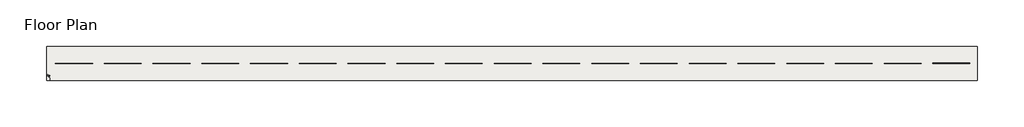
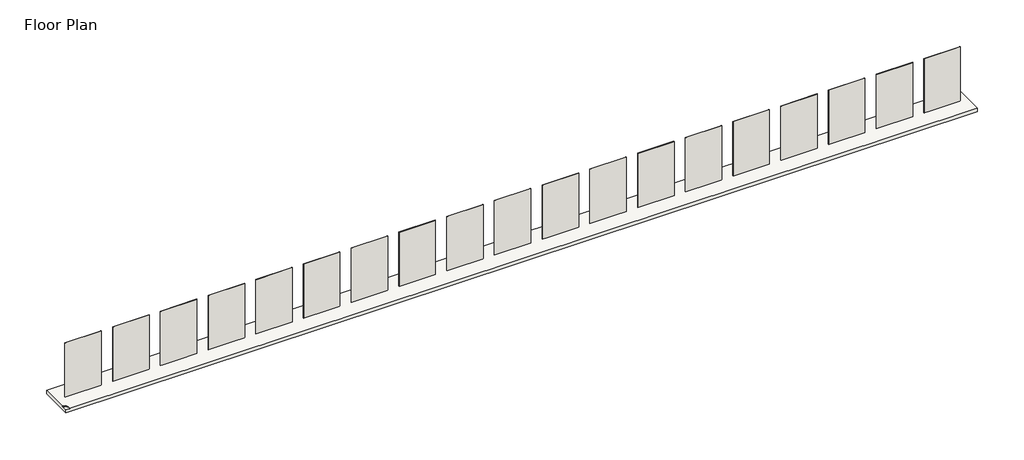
# One storey, incomplete: 19 walls, 1 slab.
"""IFC4 building model written with IfcOpenShell, lengths in millimetres."""

from ifc_helpers import new_model, si_unit, origin, origin_with_axes, place, context, project, spatial, polyline, outline, extrude, faceted_brep, element, save

model = new_model("IFC4")

# Units and contexts
model_context = context("Model", 3, world=origin())
ifc_project = project(units=[si_unit("LENGTHUNIT", "METRE", prefix="MILLI")], contexts=[model_context])

# Site, building, storey
site = spatial("IfcSite", under=ifc_project)
building = spatial("IfcBuilding", under=site)
storey = spatial("IfcBuildingStorey", under=building, Name="Floor Plan", Elevation=0.0)

# Slab
placement = place(None, origin())
element("IfcSlab", 1, ObjectType="Floor 1", at=placement, inside=storey, context=model_context, shape_type="Brep", body=[
    faceted_brep([(329469.564463, -1405.268292, -300.0), (253069.564463, -1405.268292, -300.0), (253069.564463, 1405.268292, -300.0), (329469.564463, 1405.268292, -300.0), (329469.564463, 1405.268292, 0.0), (253069.564463, 1405.268292, 0.0), (253069.564463, -838.8208533, 0.0), (253073.1211266, -836.7674126, 0.0), (253103.8301292, -854.4972635, 0.0), (253103.8301292, -887.6294851, 0.0), (253073.1211266, -905.3593361, 0.0), (253069.564463, -903.3058954, 0.0), (253069.564463, -1029.5470898, 0.0), (253079.1972272, -1035.1085689, 0.0), (253115.3908374, -1014.2121783, 0.0), (253162.4046401, -1041.3556099, 0.0), (253208.4091656, -1014.7948848, 0.0), (253267.6401701, -1048.9919211, 0.0), (253267.6401701, -1095.6301509, 0.0), (253296.9088101, -1078.7318937, 0.0), (253351.5578344, -1110.2835225, 0.0), (253351.5578344, -1149.3943664, 0.0), (253386.1988505, -1169.3943664, 0.0), (253386.1988505, -1405.268292, 0.0), (329469.564463, -1405.268292, 0.0), (253152.4226577, -913.8797767, 0.0), (253198.7748127, -940.6412058, 0.0), (253198.7748127, -995.8128392, 0.0), (253152.4226577, -1022.5742684, 0.0), (253106.0705027, -995.8128392, 0.0), (253106.0705027, -940.6412058, 0.0), (253302.5290945, -971.7658751, 0.0), (253333.3339718, -989.5510793, 0.0), (253333.3339718, -1022.1588741, 0.0), (253302.5290945, -1039.9440783, 0.0), (253271.7242172, -1022.1588741, 0.0), (253271.7242172, -989.5510793, 0.0), (253386.1988505, -1405.268292, -25.0), (253069.564463, -1405.268292, -25.0), (253069.564463, -1029.5470898, -25.0), (253069.564463, -903.3058954, -25.0), (253069.564463, -838.8208533, -25.0), (253386.1988505, -1169.3943664, -25.0), (253351.5578344, -1149.3943664, -25.0), (253351.5578344, -1110.2835225, -25.0), (253296.9088101, -1078.7318937, -25.0), (253267.6401701, -1095.6301509, -25.0), (253267.6401701, -1048.9919211, -25.0), (253208.4091656, -1014.7948848, -25.0), (253162.4046401, -1041.3556099, -25.0), (253115.3908374, -1014.2121783, -25.0), (253079.1972272, -1035.1085689, -25.0), (253198.7748127, -940.6412058, -25.0), (253152.4226577, -913.8797767, -25.0), (253106.0705027, -940.6412058, -25.0), (253106.0705027, -995.8128392, -25.0), (253152.4226577, -1022.5742684, -25.0), (253198.7748127, -995.8128392, -25.0), (253103.8301292, -854.4972635, -25.0), (253073.1211266, -836.7674126, -25.0), (253073.1211266, -905.3593361, -25.0), (253103.8301292, -887.6294851, -25.0), (253333.3339718, -989.5510793, -25.0), (253302.5290945, -971.7658751, -25.0), (253271.7242172, -989.5510793, -25.0), (253271.7242172, -1022.1588741, -25.0), (253302.5290945, -1039.9440783, -25.0), (253333.3339718, -1022.1588741, -25.0)], [[[0, 1, 2, 3]], [[4, 5, 6, 7, 8, 9, 10, 11, 12, 13, 14, 15, 16, 17, 18, 19, 20, 21, 22, 23, 24], [25, 26, 27, 28, 29, 30], [31, 32, 33, 34, 35, 36]], [[1, 0, 24, 23, 37, 38]], [[2, 1, 38, 39, 12, 11, 40, 41, 6, 5]], [[3, 2, 5, 4]], [[42, 43, 44, 45, 46, 47, 48, 49, 50, 51, 39, 38, 37]], [[52, 53, 54, 55, 56, 57]], [[58, 59, 41, 40, 60, 61]], [[62, 63, 64, 65, 66, 67]], [[42, 37, 23, 22]], [[43, 42, 22, 21]], [[44, 43, 21, 20]], [[45, 44, 20, 19]], [[46, 45, 19, 18]], [[47, 46, 18, 17]], [[48, 47, 17, 16]], [[49, 48, 16, 15]], [[50, 49, 15, 14]], [[51, 50, 14, 13]], [[39, 51, 13, 12]], [[53, 52, 26, 25]], [[54, 53, 25, 30]], [[55, 54, 30, 29]], [[56, 55, 29, 28]], [[57, 56, 28, 27]], [[52, 57, 27, 26]], [[59, 58, 8, 7]], [[41, 59, 7, 6]], [[60, 40, 11, 10]], [[61, 60, 10, 9]], [[58, 61, 9, 8]], [[63, 62, 32, 31]], [[64, 63, 31, 36]], [[65, 64, 36, 35]], [[66, 65, 35, 34]], [[67, 66, 34, 33]], [[62, 67, 33, 32]], [[0, 3, 4, 24]]]),
])

# Walls
element("IfcWall", 2, ObjectType="Cemintel Compressed Sheet 6mm x 1200mm x 2400mm", at=placement, inside=storey, context=model_context, shape_type="SweptSolid", body=[
    extrude(outline(polyline([(256848.0, -4.5), (253800.0, -4.5), (253800.0, 1.5), (256848.0, 1.5), (256848.0, -4.5)])), origin_with_axes(), (0.0, 0.0, 1.0), 4820.0),
])
element("IfcWall", 3, ObjectType="Cemintel Compressed Sheet 12mm x 1200mm x 2400mm", at=placement, inside=storey, context=model_context, shape_type="SweptSolid", body=[
    extrude(outline(polyline([(260848.0, -4.5), (257800.0, -4.5), (257800.0, 7.5), (260848.0, 7.5), (260848.0, -4.5)])), origin_with_axes(), (0.0, 0.0, 1.0), 4820.0),
])
element("IfcWall", 4, ObjectType="Cemintel Compressed Sheet 12mm x 1200mm x 3000mm", at=placement, inside=storey, context=model_context, shape_type="SweptSolid", body=[
    extrude(outline(polyline([(264848.0, -4.5), (261800.0, -4.5), (261800.0, 7.5), (264848.0, 7.5), (264848.0, -4.5)])), origin_with_axes(), (0.0, 0.0, 1.0), 4820.0),
])
element("IfcWall", 5, ObjectType="Cemintel Compressed Sheet 15mm x 900mm x 1800mm", at=placement, inside=storey, context=model_context, shape_type="SweptSolid", body=[
    extrude(outline(polyline([(268848.0, -4.5), (265800.0, -4.5), (265800.0, 10.5), (268848.0, 10.5), (268848.0, -4.5)])), origin_with_axes(), (0.0, 0.0, 1.0), 4820.0),
])
element("IfcWall", 6, ObjectType="Cemintel Compressed Sheet 15mm x 900mm x 2100mm", at=placement, inside=storey, context=model_context, shape_type="SweptSolid", body=[
    extrude(outline(polyline([(272848.0, -4.5), (269800.0, -4.5), (269800.0, 10.5), (272848.0, 10.5), (272848.0, -4.5)])), origin_with_axes(), (0.0, 0.0, 1.0), 4820.0),
])
element("IfcWall", 7, ObjectType="Cemintel Compressed Sheet 15mm x 900mm x 2400mm", at=placement, inside=storey, context=model_context, shape_type="SweptSolid", body=[
    extrude(outline(polyline([(276848.0, -4.5), (273800.0, -4.5), (273800.0, 10.5), (276848.0, 10.5), (276848.0, -4.5)])), origin_with_axes(), (0.0, 0.0, 1.0), 4820.0),
])
element("IfcWall", 8, ObjectType="Cemintel Compressed Sheet 15mm x 900mm x 2700mm", at=placement, inside=storey, context=model_context, shape_type="SweptSolid", body=[
    extrude(outline(polyline([(280848.0, -4.5), (277800.0, -4.5), (277800.0, 10.5), (280848.0, 10.5), (280848.0, -4.5)])), origin_with_axes(), (0.0, 0.0, 1.0), 4820.0),
])
element("IfcWall", 9, ObjectType="Cemintel Compressed Sheet 15mm x 900mm x 3000mm", at=placement, inside=storey, context=model_context, shape_type="SweptSolid", body=[
    extrude(outline(polyline([(284848.0, -4.5), (281800.0, -4.5), (281800.0, 10.5), (284848.0, 10.5), (284848.0, -4.5)])), origin_with_axes(), (0.0, 0.0, 1.0), 4820.0),
])
element("IfcWall", 10, ObjectType="Cemintel Compressed Sheet 15mm x 1200mm x 1800mm", at=placement, inside=storey, context=model_context, shape_type="SweptSolid", body=[
    extrude(outline(polyline([(288848.0, -4.5), (285800.0, -4.5), (285800.0, 10.5), (288848.0, 10.5), (288848.0, -4.5)])), origin_with_axes(), (0.0, 0.0, 1.0), 4820.0),
])
element("IfcWall", 11, ObjectType="Cemintel Compressed Sheet 15mm x 1200mm x 2100mm", at=placement, inside=storey, context=model_context, shape_type="SweptSolid", body=[
    extrude(outline(polyline([(292848.0, -4.5), (289800.0, -4.5), (289800.0, 10.5), (292848.0, 10.5), (292848.0, -4.5)])), origin_with_axes(), (0.0, 0.0, 1.0), 4820.0),
])
element("IfcWall", 12, ObjectType="Cemintel Compressed Sheet 15mm x 1200mm x 2400mm", at=placement, inside=storey, context=model_context, shape_type="SweptSolid", body=[
    extrude(outline(polyline([(296848.0, -4.5), (293800.0, -4.5), (293800.0, 10.5), (296848.0, 10.5), (296848.0, -4.5)])), origin_with_axes(), (0.0, 0.0, 1.0), 4820.0),
])
element("IfcWall", 13, ObjectType="Cemintel Compressed Sheet 15mm x 1200mm x 2700mm", at=placement, inside=storey, context=model_context, shape_type="SweptSolid", body=[
    extrude(outline(polyline([(300848.0, -4.5), (297800.0, -4.5), (297800.0, 10.5), (300848.0, 10.5), (300848.0, -4.5)])), origin_with_axes(), (0.0, 0.0, 1.0), 4820.0),
])
element("IfcWall", 14, ObjectType="Cemintel Compressed Sheet 15mm x 1200mm x 3000mm", at=placement, inside=storey, context=model_context, shape_type="SweptSolid", body=[
    extrude(outline(polyline([(304848.0, -4.5), (301800.0, -4.5), (301800.0, 10.5), (304848.0, 10.5), (304848.0, -4.5)])), origin_with_axes(), (0.0, 0.0, 1.0), 4820.0),
])
element("IfcWall", 15, ObjectType="Cemintel Compressed Sheet 18mm x 900mm x 2400mm", at=placement, inside=storey, context=model_context, shape_type="SweptSolid", body=[
    extrude(outline(polyline([(308848.0, -4.5), (305800.0, -4.5), (305800.0, 13.5), (308848.0, 13.5), (308848.0, -4.5)])), origin_with_axes(), (0.0, 0.0, 1.0), 4820.0),
])
element("IfcWall", 16, ObjectType="Cemintel Compressed Sheet 18mm x 900mm x 3000mm", at=placement, inside=storey, context=model_context, shape_type="SweptSolid", body=[
    extrude(outline(polyline([(312848.0, -4.5), (309800.0, -4.5), (309800.0, 13.5), (312848.0, 13.5), (312848.0, -4.5)])), origin_with_axes(), (0.0, 0.0, 1.0), 4820.0),
])
element("IfcWall", 17, ObjectType="Cemintel Compressed Sheet 18mm x 1200mm x 1800mm", at=placement, inside=storey, context=model_context, shape_type="SweptSolid", body=[
    extrude(outline(polyline([(316848.0, -4.5), (313800.0, -4.5), (313800.0, 13.5), (316848.0, 13.5), (316848.0, -4.5)])), origin_with_axes(), (0.0, 0.0, 1.0), 4820.0),
])
element("IfcWall", 18, ObjectType="Cemintel Compressed Sheet 18mm x 1200mm x 2400mm", at=placement, inside=storey, context=model_context, shape_type="SweptSolid", body=[
    extrude(outline(polyline([(320848.0, -4.5), (317800.0, -4.5), (317800.0, 13.5), (320848.0, 13.5), (320848.0, -4.5)])), origin_with_axes(), (0.0, 0.0, 1.0), 4820.0),
])
element("IfcWall", 19, ObjectType="Cemintel Compressed Sheet 18mm x 1200mm x 3000mm", at=placement, inside=storey, context=model_context, shape_type="SweptSolid", body=[
    extrude(outline(polyline([(324848.0, -4.5), (321800.0, -4.5), (321800.0, 13.5), (324848.0, 13.5), (324848.0, -4.5)])), origin_with_axes(), (0.0, 0.0, 1.0), 4820.0),
])
element("IfcWall", 20, ObjectType="Cemintel Compressed Sheet 24mm x 1200mm x 2400mm", at=placement, inside=storey, context=model_context, shape_type="SweptSolid", body=[
    extrude(outline(polyline([(328848.0, -4.5), (325800.0, -4.5), (325800.0, 19.5), (328848.0, 19.5), (328848.0, -4.5)])), origin_with_axes(), (0.0, 0.0, 1.0), 4820.0),
])

save(model, "model.ifc")
